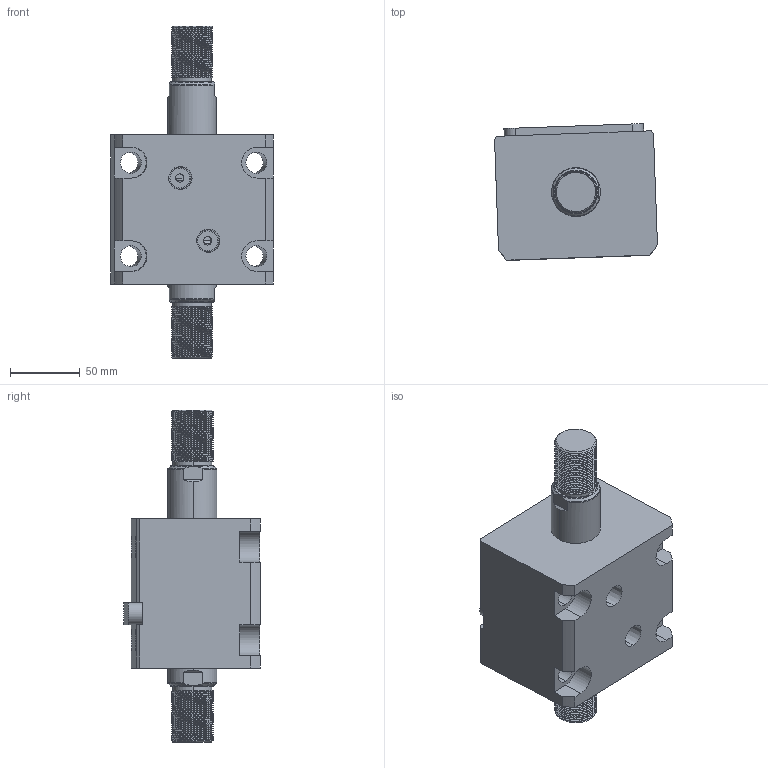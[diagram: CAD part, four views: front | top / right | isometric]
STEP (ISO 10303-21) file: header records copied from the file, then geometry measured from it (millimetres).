
FILE_DESCRIPTION (( 'STEP AP214' ), '1' );
FILE_NAME ('chtb-lw63x25w_asm.STEP', '2018-05-18T08:02:45', ( 'Windows' ), ( 'Microsoft' ), 'SwSTEP 2.0', 'SolidWorks 2015', '' );
FILE_SCHEMA (( 'AUTOMOTIVE_DESIGN' ));
Length unit declared in the file: millimetre
Products named in the file (5): CHTB-SW63X25WHSG; CHTB-LW63X25NBT; CHTB-LA63PJ; CHTB-63QG; chtb-lw63x25w_asm
Assembly tree (4 placements, depth 2):
  chtb-lw63x25w_asm
    CHTB-63QG
    CHTB-LA63PJ
    CHTB-LW63X25NBT
    CHTB-SW63X25WHSG
Bounding box: 116.76 x 98.04 x 238 mm (x, y, z)
Volume: 1054161.7 mm3; surface area: 160529.8 mm2
Topology: 4 solids, 4 shells, 306 faces, 889 edges, 601 vertices
Faces by surface type: cylinder 204, plane 58, bspline 16, cone 16, torus 12
Entity records: 27878 total; most frequent: CARTESIAN_POINT 20531, ORIENTED_EDGE 1770, DIRECTION 1228, EDGE_CURVE 885, VERTEX_POINT 601, AXIS2_PLACEMENT_3D 458, EDGE_LOOP 336, LINE 312
